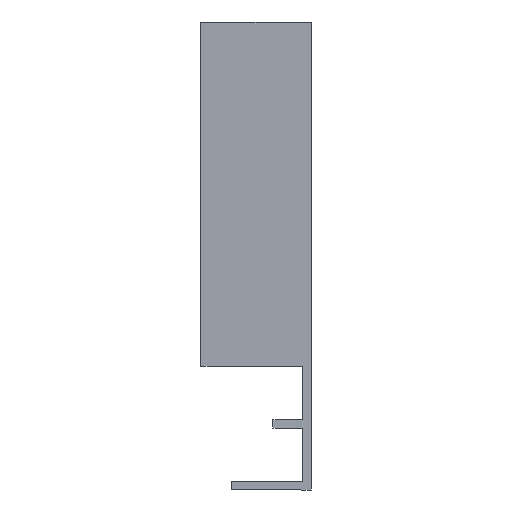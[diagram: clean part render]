
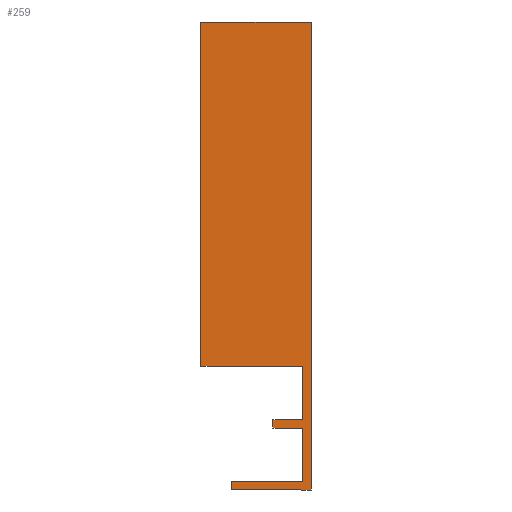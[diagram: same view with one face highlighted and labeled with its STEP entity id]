
A CAD part, left-side view. The second image highlights one B-rep face of the part: STEP entity #259.
In plain terms, the highlighted planar face has unit normal (-1, 0, 0).
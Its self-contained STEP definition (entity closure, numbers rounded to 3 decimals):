
#3 = EDGE_CURVE ( 'NONE', #30, #36, #322, .T. ) ;
#7 = EDGE_CURVE ( 'NONE', #26, #37, #320, .T. ) ;
#8 = EDGE_CURVE ( 'NONE', #34, #30, #313, .T. ) ;
#12 = EDGE_CURVE ( 'NONE', #36, #26, #305, .T. ) ;
#15 = EDGE_CURVE ( 'NONE', #37, #39, #299, .T. ) ;
#21 = EDGE_CURVE ( 'NONE', #43, #45, #287, .T. ) ;
#24 = CARTESIAN_POINT ( 'NONE',  ( -263.5, 6., -16.7 ) ) ;
#26 = VERTEX_POINT ( 'NONE', #101 ) ;
#30 = VERTEX_POINT ( 'NONE', #107 ) ;
#34 = VERTEX_POINT ( 'NONE', #110 ) ;
#36 = VERTEX_POINT ( 'NONE', #112 ) ;
#37 = VERTEX_POINT ( 'NONE', #113 ) ;
#39 = VERTEX_POINT ( 'NONE', #115 ) ;
#41 = VERTEX_POINT ( 'NONE', #117 ) ;
#43 = VERTEX_POINT ( 'NONE', #119 ) ;
#45 = VERTEX_POINT ( 'NONE', #121 ) ;
#47 = VERTEX_POINT ( 'NONE', #123 ) ;
#49 = VERTEX_POINT ( 'NONE', #125 ) ;
#51 = VERTEX_POINT ( 'NONE', #127 ) ;
#54 = DIRECTION ( 'NONE',  ( 0., 0., -1. ) ) ;
#60 = CARTESIAN_POINT ( 'NONE',  ( -263.5, -5.5, -17.9 ) ) ;
#63 = DIRECTION ( 'NONE',  ( 0., 0., 1. ) ) ;
#64 = CARTESIAN_POINT ( 'NONE',  ( -263.5, -4.3, -16.7 ) ) ;
#65 = DIRECTION ( 'NONE',  ( 0., 1., 0. ) ) ;
#72 = CARTESIAN_POINT ( 'NONE',  ( -263.5, 6., -17.9 ) ) ;
#73 = DIRECTION ( 'NONE',  ( 0., -1., 0. ) ) ;
#78 = CARTESIAN_POINT ( 'NONE',  ( -263.5, -5.5, 49.7 ) ) ;
#79 = DIRECTION ( 'NONE',  ( 0., 1., 0. ) ) ;
#92 = CARTESIAN_POINT ( 'NONE',  ( -263.5, -4.3, 0. ) ) ;
#93 = DIRECTION ( 'NONE',  ( 0., 0., -1. ) ) ;
#101 = CARTESIAN_POINT ( 'NONE',  ( -263.5, -5.5, -17.9 ) ) ;
#107 = CARTESIAN_POINT ( 'NONE',  ( -263.5, 6., -16.7 ) ) ;
#110 = CARTESIAN_POINT ( 'NONE',  ( -263.5, -4.3, -16.7 ) ) ;
#112 = CARTESIAN_POINT ( 'NONE',  ( -263.5, 6., -17.9 ) ) ;
#113 = CARTESIAN_POINT ( 'NONE',  ( -263.5, -5.5, 49.7 ) ) ;
#115 = CARTESIAN_POINT ( 'NONE',  ( -263.5, 10.4, 49.7 ) ) ;
#117 = CARTESIAN_POINT ( 'NONE',  ( -263.5, 10.4, 0. ) ) ;
#119 = CARTESIAN_POINT ( 'NONE',  ( -263.5, -4.3, 0. ) ) ;
#121 = CARTESIAN_POINT ( 'NONE',  ( -263.5, -4.3, -7.75 ) ) ;
#123 = CARTESIAN_POINT ( 'NONE',  ( -263.5, 0., -7.75 ) ) ;
#125 = CARTESIAN_POINT ( 'NONE',  ( -263.5, 0., -8.95 ) ) ;
#127 = CARTESIAN_POINT ( 'NONE',  ( -263.5, -4.3, -8.95 ) ) ;
#130 = CARTESIAN_POINT ( 'NONE',  ( -263.5, 6., -16.7 ) ) ;
#131 = PLANE ( 'NONE',  #522 ) ;
#134 = DIRECTION ( 'NONE',  ( -1., 0., 0. ) ) ;
#135 = DIRECTION ( 'NONE',  ( 0., -1., 0. ) ) ;
#200 = CARTESIAN_POINT ( 'NONE',  ( -263.5, 10.4, 0. ) ) ;
#203 = DIRECTION ( 'NONE',  ( 0., -1., 0. ) ) ;
#208 = CARTESIAN_POINT ( 'NONE',  ( -263.5, 0., -7.75 ) ) ;
#209 = DIRECTION ( 'NONE',  ( 0., 0., -1. ) ) ;
#214 = CARTESIAN_POINT ( 'NONE',  ( -263.5, 0., -8.95 ) ) ;
#215 = DIRECTION ( 'NONE',  ( 0., -1., 0. ) ) ;
#220 = CARTESIAN_POINT ( 'NONE',  ( -263.5, -4.3, -8.95 ) ) ;
#221 = DIRECTION ( 'NONE',  ( 0., 0., -1. ) ) ;
#238 = CARTESIAN_POINT ( 'NONE',  ( -263.5, 10.4, 49.7 ) ) ;
#239 = DIRECTION ( 'NONE',  ( 0., 0., -1. ) ) ;
#241 = CARTESIAN_POINT ( 'NONE',  ( -263.5, -4.3, -7.75 ) ) ;
#242 = DIRECTION ( 'NONE',  ( 0., 1., 0. ) ) ;
#259 = ADVANCED_FACE ( 'NONE', ( #431 ), #131, .T. ) ;
#286 = VECTOR ( 'NONE', #93, 1000. ) ;
#287 = LINE ( 'NONE', #92, #286 ) ;
#298 = VECTOR ( 'NONE', #79, 1000. ) ;
#299 = LINE ( 'NONE', #78, #298 ) ;
#304 = VECTOR ( 'NONE', #73, 1000. ) ;
#305 = LINE ( 'NONE', #72, #304 ) ;
#312 = VECTOR ( 'NONE', #65, 1000. ) ;
#313 = LINE ( 'NONE', #64, #312 ) ;
#315 = VECTOR ( 'NONE', #63, 1000. ) ;
#320 = LINE ( 'NONE', #60, #315 ) ;
#321 = VECTOR ( 'NONE', #54, 1000. ) ;
#322 = LINE ( 'NONE', #24, #321 ) ;
#342 = ORIENTED_EDGE ( 'NONE', *, *, #3, .T. ) ;
#350 = ORIENTED_EDGE ( 'NONE', *, *, #510, .T. ) ;
#351 = ORIENTED_EDGE ( 'NONE', *, *, #8, .T. ) ;
#353 = ORIENTED_EDGE ( 'NONE', *, *, #7, .T. ) ;
#359 = ORIENTED_EDGE ( 'NONE', *, *, #21, .T. ) ;
#362 = ORIENTED_EDGE ( 'NONE', *, *, #507, .T. ) ;
#367 = ORIENTED_EDGE ( 'NONE', *, *, #501, .T. ) ;
#372 = ORIENTED_EDGE ( 'NONE', *, *, #15, .T. ) ;
#373 = ORIENTED_EDGE ( 'NONE', *, *, #545, .T. ) ;
#375 = ORIENTED_EDGE ( 'NONE', *, *, #12, .T. ) ;
#415 = ORIENTED_EDGE ( 'NONE', *, *, #546, .T. ) ;
#419 = ORIENTED_EDGE ( 'NONE', *, *, #504, .T. ) ;
#423 = EDGE_LOOP ( 'NONE', ( #351, #342, #375, #353, #372, #373, #367, #359, #415, #419, #362, #350 ) ) ;
#431 = FACE_OUTER_BOUND ( 'NONE', #423, .T. ) ;
#453 = VECTOR ( 'NONE', #203, 1000. ) ;
#457 = LINE ( 'NONE', #200, #453 ) ;
#463 = LINE ( 'NONE', #208, #464 ) ;
#464 = VECTOR ( 'NONE', #209, 1000. ) ;
#469 = LINE ( 'NONE', #214, #470 ) ;
#470 = VECTOR ( 'NONE', #215, 1000. ) ;
#475 = LINE ( 'NONE', #220, #476 ) ;
#476 = VECTOR ( 'NONE', #221, 1000. ) ;
#484 = LINE ( 'NONE', #238, #485 ) ;
#485 = VECTOR ( 'NONE', #239, 1000. ) ;
#488 = LINE ( 'NONE', #241, #489 ) ;
#489 = VECTOR ( 'NONE', #242, 1000. ) ;
#501 = EDGE_CURVE ( 'NONE', #41, #43, #457, .T. ) ;
#504 = EDGE_CURVE ( 'NONE', #47, #49, #463, .T. ) ;
#507 = EDGE_CURVE ( 'NONE', #49, #51, #469, .T. ) ;
#510 = EDGE_CURVE ( 'NONE', #51, #34, #475, .T. ) ;
#522 = AXIS2_PLACEMENT_3D ( 'NONE', #130, #134, #135 ) ;
#545 = EDGE_CURVE ( 'NONE', #39, #41, #484, .T. ) ;
#546 = EDGE_CURVE ( 'NONE', #45, #47, #488, .T. ) ;
